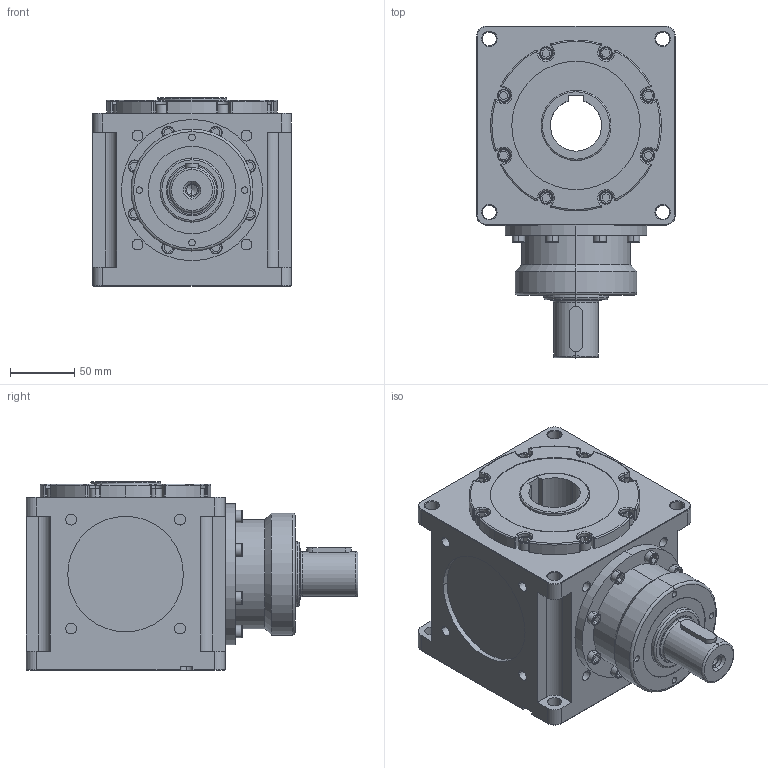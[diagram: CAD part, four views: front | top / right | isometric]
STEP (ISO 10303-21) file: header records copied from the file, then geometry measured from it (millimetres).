
FILE_DESCRIPTION (( 'STEP AP214' ), '1' );
FILE_NAME ('CCT155A-002-CR.STEP', '2025-05-24T05:26:22', ( '微软用户' ), ( '微软中国' ), 'SwSTEP 2.0', 'SolidWorks 2024', '' );
FILE_SCHEMA (( 'AUTOMOTIVE_DESIGN' ));
Length unit declared in the file: millimetre
Products named in the file (3): CCW155A-002-CR箱体; CCT155A-002-CR; CCW155A输入组件
Assembly tree (2 placements, depth 2):
  CCT155A-002-CR
    CCW155A-002-CR箱体
    CCW155A输入组件
Bounding box: 155 x 258.5 x 147 mm (x, y, z)
Volume: 3265713.6 mm3; surface area: 220881.9 mm2
Topology: 2 solids, 2 shells, 538 faces, 1265 edges, 781 vertices
Faces by surface type: plane 227, cylinder 200, torus 65, cone 30, sphere 16
Entity records: 15496 total; most frequent: DIRECTION 2888, CARTESIAN_POINT 2649, ORIENTED_EDGE 2494, EDGE_CURVE 1247, AXIS2_PLACEMENT_3D 1102, VERTEX_POINT 781, VECTOR 684, LINE 684
